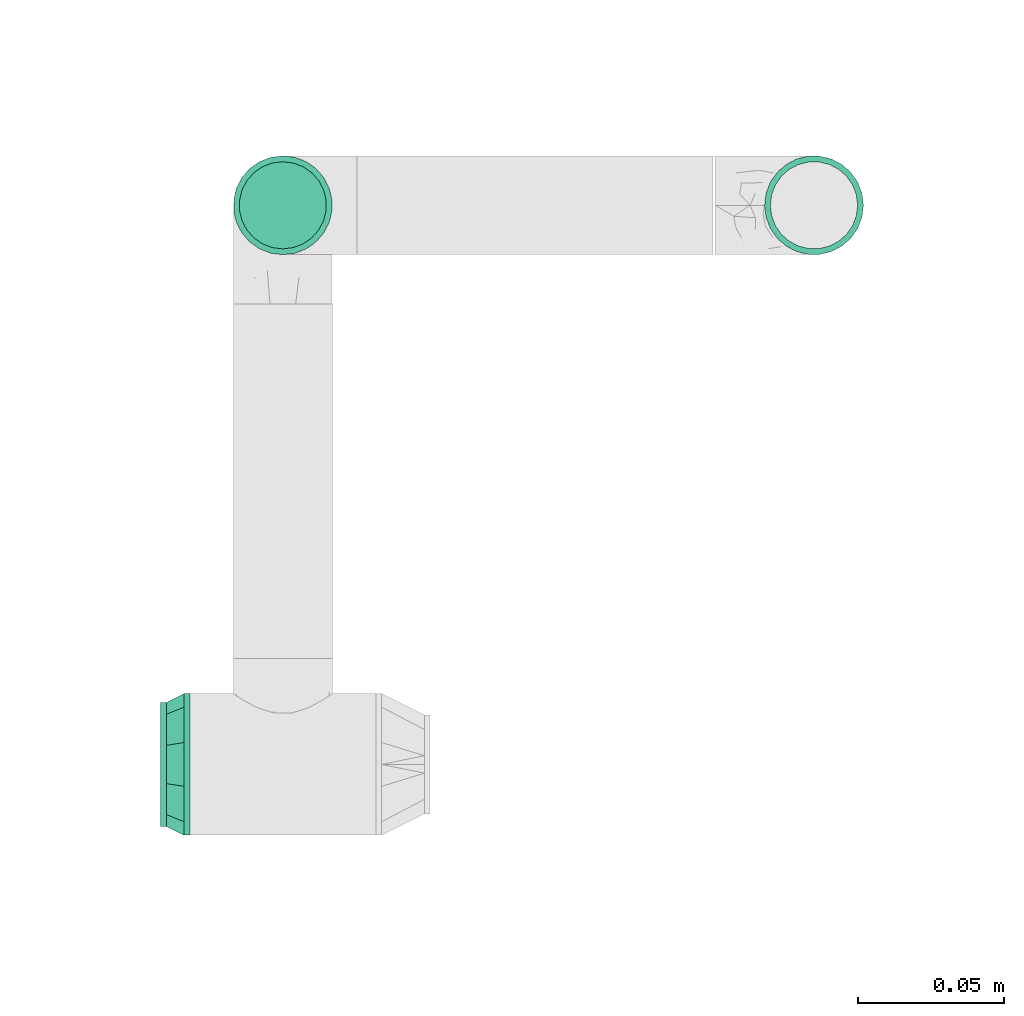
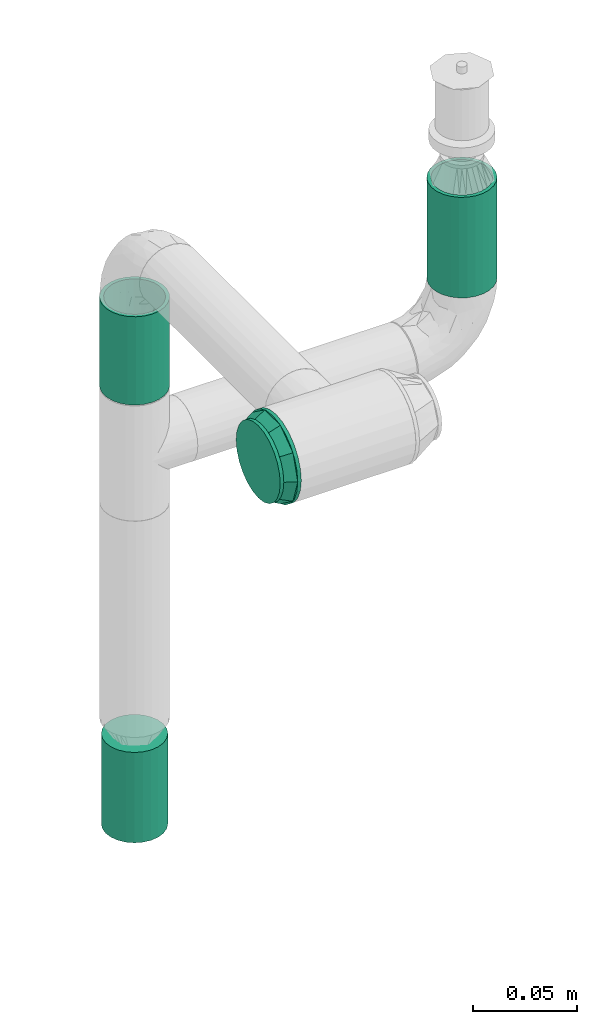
# One storey, part 134 of 157: 2 flow segments, 1 flow fitting, 1 flow terminal.
"""IFC2X3 building model written with IfcOpenShell, lengths in millimetres."""

from ifc_helpers import new_model, entity, si_unit, converted_unit, derived_unit, direction, frame, origin_with_axes, origin_2d_with_axis, place, context, subcontext, project, spatial, hollow_circle, extrude, open_shell, surface_model, source, transform, mapped, type_object, element, save


model = new_model("IFC2X3")

# Units and contexts
model_context = context("Model", 3, precision=0.01, world=frame((0.0, 4.29681676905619e-09, 0.0)), true_north=direction((4.01073788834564e-13, 1.0)))
plan_context = context("Plan", 3, precision=0.01, world=frame((0.0, 4.29681676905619e-09, 0.0)), true_north=direction((4.01073788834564e-13, 1.0)))
body_context = subcontext(model_context, "Body", "Model", "MODEL_VIEW")
ifc_project = project(units=[converted_unit("PLANEANGLEUNIT", "DEGREE", entity("IfcPositiveLengthMeasure", 0.0174532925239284), si_unit("PLANEANGLEUNIT", "RADIAN"), dimensions=[0, 0, 0, 0, 0, 0, 0]), si_unit("AREAUNIT", "SQUARE_METRE"), si_unit("LENGTHUNIT", "METRE", prefix="MILLI"), si_unit("MASSUNIT", "GRAM", prefix="KILO"), si_unit("POWERUNIT", "WATT"), si_unit("PRESSUREUNIT", "PASCAL"), si_unit("FORCEUNIT", "NEWTON", prefix="KILO"), si_unit("ELECTRICCURRENTUNIT", "AMPERE"), si_unit("THERMODYNAMICTEMPERATUREUNIT", "DEGREE_CELSIUS"), si_unit("TIMEUNIT", "SECOND"), si_unit("VOLUMEUNIT", "CUBIC_METRE"), derived_unit("LINEARVELOCITYUNIT", [(si_unit("LENGTHUNIT", "METRE"), 1), (si_unit("TIMEUNIT", "SECOND"), -1)]), derived_unit("VOLUMETRICFLOWRATEUNIT", [(si_unit("VOLUMEUNIT", "CUBIC_METRE"), 1), (si_unit("TIMEUNIT", "SECOND"), -1)]), derived_unit("THERMALTRANSMITTANCEUNIT", [(si_unit("POWERUNIT", "WATT"), 1), (si_unit("THERMODYNAMICTEMPERATUREUNIT", "KELVIN"), -1), (si_unit("AREAUNIT", "SQUARE_METRE"), -1)])], contexts=[model_context, plan_context])

# Site, building, storey
site_placement = place(None, frame((0.0, -4.29681676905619e-09, 0.0), z_axis=(0.0, 0.0, 1.0), x_axis=(1.0, 0.0, 0.0)))
site = spatial("IfcSite", under=ifc_project, at=site_placement, CompositionType="ELEMENT")
building_placement = place(site_placement, frame((0.0, 4.29681676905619e-09, 0.0), z_axis=(0.0, 0.0, 1.0), x_axis=(1.0, 0.0, 0.0)))
building = spatial("IfcBuilding", under=site, at=building_placement, Name="mc-building", CompositionType="ELEMENT")
storey_placement = place(building_placement, frame((0.0, 0.0, 204000.0), z_axis=(0.0, 0.0, 1.0), x_axis=(1.0, 0.0, 0.0)))
storey = spatial("IfcBuildingStorey", under=building, at=storey_placement, Name="Nivå D", CompositionType="ELEMENT", Elevation=204000.0)

# Flow fitting
pipe_fitting_type = type_object("IfcPipeFittingType", Name="magi_pipe_fe_reducer_centric_short_NOR", PredefinedType="TRANSITION")
shared_shape_1 = source(origin_with_axes(), body_context, "Body", "SurfaceModel", [
    surface_model("IfcShellBasedSurfaceModel", [(8.0, 10.6, -18.35974), (8.0, 0.0, -21.2), (8.0, 5.48696, -20.47763), (8.0, 20.47763, -5.48696), (8.0, 14.99066, -14.99066), (8.0, -21.2, 0.0), (8.0, -14.99066, -14.99066), (8.0, 18.35974, -10.6), (8.0, -10.6, -18.35974), (8.0, -5.48696, -20.47763), (8.0, -18.35974, -10.6), (8.0, -20.47763, -5.48696), (8.0, -18.35974, 10.6), (8.0, 21.2, 0.0), (8.0, 20.47763, 5.48696), (8.0, 18.35974, 10.6), (8.0, 14.99066, 14.99066), (8.0, 0.0, 21.2), (8.0, 10.6, 18.35974), (8.0, 5.48696, 20.47763), (8.0, -14.99066, 14.99066), (8.0, -20.47763, 5.48696), (8.0, -5.48696, 20.47763), (8.0, -10.6, 18.35974), (6.0, 0.0, 21.2), (6.0, 5.48696, 20.47763), (6.0, 10.6, 18.35974), (6.0, 14.99066, 14.99066), (6.0, 18.35974, 10.6), (6.0, 20.47763, 5.48696), (6.0, -21.2, 0.0), (6.0, -14.99066, -14.99066), (6.0, -5.48696, 20.47763), (6.0, -14.99066, 14.99066), (6.0, -10.6, 18.35974), (6.0, -18.35974, 10.6), (6.0, -20.47763, 5.48696), (6.0, 20.47763, -5.48696), (6.0, 10.6, -18.35974), (6.0, 14.99066, -14.99066), (6.0, 18.35974, -10.6), (6.0, 5.48696, -20.47763), (6.0, 0.0, -21.2), (6.0, -18.35974, -10.6), (6.0, -20.47763, -5.48696), (6.0, -10.6, -18.35974), (6.0, -5.48696, -20.47763), (6.0, 21.2, 0.0), (-2.0, 0.0, 24.2), (-2.0, 6.26342, 23.37541), (-2.0, 12.1, 20.95781), (-2.0, 17.11198, 17.11198), (-2.0, 24.2, 0.0), (-2.0, 20.95781, 12.1), (-2.0, -23.37541, 6.26342), (-2.0, -17.11198, -17.11198), (-2.0, -6.26342, 23.37541), (-2.0, -17.11198, 17.11198), (-2.0, -12.1, 20.95781), (-2.0, -20.95781, 12.1), (-2.0, -24.2, 0.0), (-2.0, 23.37541, 6.26342), (-2.0, 23.37541, -6.26342), (-2.0, 6.26342, -23.37541), (-2.0, 17.11198, -17.11198), (-2.0, 20.95781, -12.1), (-2.0, 12.1, -20.95781), (-2.0, -23.37541, -6.26342), (-2.0, -20.95781, -12.1), (-2.0, -6.26342, -23.37541), (-2.0, -12.1, -20.95781), (-2.0, 0.0, -24.2), (0.0, 24.2, 0.0), (0.0, 6.26342, -23.37541), (0.0, 12.1, -20.95781), (0.0, 23.37541, -6.26342), (0.0, 17.11198, -17.11198), (0.0, 20.95781, -12.1), (0.0, -24.2, 0.0), (0.0, -12.1, -20.95781), (0.0, -6.26342, -23.37541), (0.0, 0.0, -24.2), (0.0, -17.11198, -17.11198), (0.0, -23.37541, -6.26342), (0.0, -20.95781, -12.1), (0.0, 20.95781, 12.1), (0.0, 17.11198, 17.11198), (0.0, 12.1, 20.95781), (0.0, 6.26342, 23.37541), (0.0, 0.0, 24.2), (0.0, -23.37541, 6.26342), (0.0, -17.11198, 17.11198), (0.0, -20.95781, 12.1), (0.0, -6.26342, 23.37541), (0.0, -12.1, 20.95781), (0.0, 23.37541, 6.26342), (6.0, -6.55116, 20.1624), (6.0, -17.15116, 12.46105), (6.0, 17.15116, 12.46105), (6.0, 6.55116, 20.1624), (6.0, -6.55116, -20.1624), (6.0, -17.15116, -12.46105), (6.0, 6.55116, -20.1624), (6.0, 17.15116, -12.46105), (0.0, 7.47821, 23.01557), (0.0, 19.57821, 14.2244), (0.0, -7.47821, 23.01557), (0.0, -19.57821, 14.2244), (0.0, 7.47821, -23.01557), (0.0, 19.57821, -14.2244), (0.0, -7.47821, -23.01557), (0.0, -19.57821, -14.2244), (6.0, 11.85116, -16.31172), (0.0, 13.52821, -18.61999), (0.0, 21.8891, -7.1122), (6.0, 19.17558, -6.23052), (0.0, -22.51537, -5.18476), (6.0, 0.0, -20.1624), (0.0, 0.0, -23.01557), (6.0, -19.17558, -6.23052), (0.0, -13.52821, -18.61999), (6.0, -11.85116, -16.31172), (0.0, -21.04679, -9.70458), (6.0, -11.85116, 16.31172), (0.0, -13.52821, 18.61999), (0.0, -21.8891, 7.1122), (6.0, -19.17558, 6.23052), (0.0, 22.51537, 5.18476), (6.0, 0.0, 20.1624), (0.0, 0.0, 23.01557), (6.0, 19.17558, 6.23052), (0.0, 13.52821, 18.61999), (6.0, 11.85116, 16.31172), (0.0, 21.04679, 9.70458)], [open_shell([[[0, 1, 2]], [[3, 0, 4]], [[5, 6, 0]], [[3, 4, 7]], [[3, 5, 0]], [[1, 8, 9]], [[1, 0, 8]], [[10, 5, 11]], [[8, 0, 6]], [[10, 6, 5]], [[12, 3, 13]], [[14, 15, 16]], [[14, 16, 17]], [[18, 19, 17]], [[18, 17, 16]], [[14, 17, 20]], [[5, 12, 21]], [[3, 12, 5]], [[20, 22, 23]], [[12, 14, 20]], [[17, 22, 20]], [[12, 13, 14]], [[24, 25, 26]], [[24, 26, 27]], [[27, 28, 29]], [[27, 29, 24]], [[30, 24, 31]], [[32, 33, 34]], [[32, 24, 33]], [[35, 30, 36]], [[33, 24, 35]], [[24, 30, 35]], [[24, 29, 31]], [[29, 37, 38]], [[39, 37, 40]], [[31, 29, 38]], [[38, 37, 39]], [[41, 42, 38]], [[30, 43, 44]], [[31, 43, 30]], [[45, 42, 46]], [[45, 31, 38]], [[42, 45, 38]], [[37, 29, 47]], [[44, 11, 30]], [[43, 10, 44]], [[8, 31, 45]], [[43, 31, 6]], [[9, 45, 46]], [[44, 10, 11]], [[11, 5, 30]], [[9, 8, 45]], [[6, 31, 8]], [[6, 10, 43]], [[1, 9, 46]], [[46, 42, 1]], [[41, 2, 42]], [[38, 0, 41]], [[7, 39, 40]], [[38, 39, 4]], [[3, 40, 37]], [[38, 4, 0]], [[0, 2, 41]], [[13, 3, 37]], [[7, 40, 3]], [[7, 4, 39]], [[47, 13, 37]], [[42, 2, 1]], [[29, 14, 47]], [[28, 15, 29]], [[18, 27, 26]], [[28, 27, 16]], [[19, 26, 25]], [[29, 15, 14]], [[14, 13, 47]], [[19, 18, 26]], [[16, 27, 18]], [[16, 15, 28]], [[17, 19, 25]], [[25, 24, 17]], [[32, 22, 24]], [[34, 23, 32]], [[12, 33, 35]], [[34, 33, 20]], [[21, 35, 36]], [[34, 20, 23]], [[23, 22, 32]], [[5, 21, 36]], [[12, 35, 21]], [[12, 20, 33]], [[30, 5, 36]], [[24, 22, 17]], [[48, 49, 50]], [[48, 50, 51]], [[52, 51, 53]], [[54, 48, 55]], [[48, 51, 55]], [[56, 57, 58]], [[56, 48, 57]], [[57, 54, 59]], [[48, 54, 57]], [[54, 55, 60]], [[52, 53, 61]], [[51, 62, 63]], [[64, 62, 65]], [[66, 63, 62]], [[66, 62, 64]], [[63, 55, 51]], [[67, 55, 68]], [[60, 55, 67]], [[63, 69, 70]], [[70, 55, 63]], [[69, 63, 71]], [[62, 51, 52]], [[72, 73, 74]], [[75, 74, 76]], [[75, 72, 74]], [[75, 76, 77]], [[73, 78, 79]], [[73, 80, 81]], [[73, 79, 80]], [[82, 83, 84]], [[82, 79, 78]], [[82, 78, 83]], [[73, 72, 85]], [[85, 86, 73]], [[73, 86, 78]], [[87, 88, 89]], [[87, 89, 86]], [[78, 86, 89]], [[90, 91, 92]], [[93, 90, 78]], [[91, 93, 94]], [[93, 91, 90]], [[78, 89, 93]], [[72, 95, 85]], [[67, 83, 60]], [[68, 84, 67]], [[79, 55, 70]], [[68, 55, 82]], [[80, 70, 69]], [[67, 84, 83]], [[83, 78, 60]], [[80, 79, 70]], [[82, 55, 79]], [[82, 84, 68]], [[81, 80, 69]], [[69, 71, 81]], [[63, 73, 71]], [[66, 74, 63]], [[77, 64, 65]], [[66, 64, 76]], [[75, 65, 62]], [[66, 76, 74]], [[74, 73, 63]], [[72, 75, 62]], [[77, 65, 75]], [[77, 76, 64]], [[52, 72, 62]], [[71, 73, 81]], [[61, 95, 52]], [[53, 85, 61]], [[87, 51, 50]], [[53, 51, 86]], [[88, 50, 49]], [[61, 85, 95]], [[95, 72, 52]], [[88, 87, 50]], [[86, 51, 87]], [[86, 85, 53]], [[89, 88, 49]], [[49, 48, 89]], [[56, 93, 48]], [[58, 94, 56]], [[92, 57, 59]], [[58, 57, 91]], [[90, 59, 54]], [[58, 91, 94]], [[94, 93, 56]], [[78, 90, 54]], [[92, 59, 90]], [[92, 91, 57]], [[60, 78, 54]], [[48, 93, 89]], [[96, 97, 98]], [[96, 98, 99]], [[98, 97, 47]], [[97, 100, 47]], [[97, 101, 100]], [[102, 103, 47]], [[47, 100, 102]], [[101, 97, 30]], [[104, 105, 106]], [[105, 107, 106]], [[107, 105, 78]], [[105, 108, 78]], [[109, 108, 105]], [[78, 110, 111]], [[78, 108, 110]], [[105, 72, 109]], [[109, 103, 112]], [[102, 113, 112]], [[113, 102, 108]], [[114, 115, 103]], [[47, 115, 72]], [[113, 109, 112]], [[30, 78, 116]], [[108, 117, 118]], [[118, 117, 100]], [[100, 110, 118]], [[103, 109, 114]], [[72, 115, 114]], [[116, 119, 30]], [[120, 121, 101]], [[100, 121, 110]], [[119, 122, 101]], [[110, 121, 120]], [[101, 111, 120]], [[119, 116, 122]], [[102, 117, 108]], [[122, 111, 101]], [[107, 97, 123]], [[96, 124, 123]], [[124, 96, 106]], [[125, 126, 97]], [[30, 126, 78]], [[124, 107, 123]], [[47, 72, 127]], [[106, 128, 129]], [[129, 128, 99]], [[99, 104, 129]], [[97, 107, 125]], [[78, 126, 125]], [[127, 130, 47]], [[131, 132, 98]], [[99, 132, 104]], [[130, 133, 98]], [[104, 132, 131]], [[98, 105, 131]], [[130, 127, 133]], [[96, 128, 106]], [[133, 105, 98]]])]),
])
flow_fitting_placement = place(storey_placement, frame((517975.58219, 420106.68371, 2690.0), z_axis=(0.0, 0.0, 1.0), x_axis=(-1.0, 0.0, 0.0)))
element("IfcFlowFitting", 1, at=flow_fitting_placement, inside=storey, type_object=pipe_fitting_type, Name="magi_pipe_fe_reducer_centric_short_NOR", context=body_context, shape_type="MappedRepresentation", body=[
    mapped(shared_shape_1, transform((0.0, 0.0, 0.0), scale=1.0)),
])

# Flow segments
pipe_segment_type = type_object("IfcPipeSegmentType", Name="Stålrør normaltykke", PredefinedType="RIGIDSEGMENT")
shared_shape_2 = source(origin_with_axes(), body_context, "Body", "SweptSolid", [
    extrude(hollow_circle(Radius=16.9, WallThickness=2.0, at=origin_2d_with_axis()), frame((0.0, 0.0, 0.0), z_axis=(1.0, 0.0, 0.0), x_axis=(0.0, 1.0, 0.0)), (0.0, 0.0, 1.0), 51.8),
])
flow_segment_1_placement = place(storey_placement, frame((518009.38219, 420297.85762, 2656.20000000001), z_axis=(1.0, 0.0, 0.0), x_axis=(0.0, 0.0, -1.0)))
element("IfcFlowSegment", 2, at=flow_segment_1_placement, inside=storey, type_object=pipe_segment_type, Name="Stålrør normaltykke", context=body_context, shape_type="MappedRepresentation", body=[
    mapped(shared_shape_2, transform((0.0, 0.0, 0.0), scale=1.0)),
])
shared_shape_3 = source(origin_with_axes(), body_context, "Body", "SweptSolid", [
    extrude(hollow_circle(Radius=16.9, WallThickness=2.0, at=origin_2d_with_axis()), frame((0.0, 0.0, 0.0), z_axis=(1.0, 0.0, 0.0), x_axis=(0.0, 1.0, 0.0)), (0.0, 0.0, 1.0), 59.0),
])
flow_segment_2_placement = place(storey_placement, frame((518190.99696, 420297.85762, 2662.64799999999), z_axis=(0.0, 1.0, 0.0), x_axis=(0.0, 0.0, -1.0)))
element("IfcFlowSegment", 3, at=flow_segment_2_placement, inside=storey, type_object=pipe_segment_type, Name="Stålrør normaltykke", context=body_context, shape_type="MappedRepresentation", body=[
    mapped(shared_shape_3, transform((0.0, 0.0, 0.0), scale=1.0)),
])

# Flow terminal
fire_suppression_terminal_type = type_object("IfcFireSuppressionTerminalType", Name="SP-15-K80-68DGR-STD-HIMLING", PredefinedType="NOTDEFINED")
shared_shape_4 = source(origin_with_axes(), body_context, "Body", "SurfaceModel", [
    surface_model("IfcShellBasedSurfaceModel", [(4.1411, -15.45481, 53.0), (8.0, -13.85641, 53.0), (11.31371, -11.31371, 53.0), (-8.0, -13.85641, 53.0), (15.45481, -4.1411, 53.0), (16.0, 0.0, 53.0), (13.85641, -8.0, 53.0), (0.0, -16.0, 53.0), (-4.1411, -15.45481, 53.0), (-13.85641, -8.0, 53.0), (-11.31371, -11.31371, 53.0), (-15.45481, -4.1411, 53.0), (15.45481, 4.1411, 53.0), (13.85641, 8.0, 53.0), (11.31371, 11.31371, 53.0), (-4.1411, 15.45481, 53.0), (8.0, 13.85641, 53.0), (4.1411, 15.45481, 53.0), (0.0, 16.0, 53.0), (-13.85641, 8.0, 53.0), (-15.45481, 4.1411, 53.0), (-16.0, 0.0, 53.0), (-11.31371, 11.31371, 53.0), (-8.0, 13.85641, 53.0), (0.0, 16.0, 0.0), (4.1411, 15.45481, 0.0), (8.0, 13.85641, 0.0), (-4.1411, 15.45481, 0.0), (11.31371, 11.31371, 0.0), (13.85641, 8.0, 0.0), (15.45481, 4.1411, 0.0), (-15.45481, -4.1411, 0.0), (-11.31371, 11.31371, 0.0), (-8.0, 13.85641, 0.0), (-13.85641, 8.0, 0.0), (-15.45481, 4.1411, 0.0), (-16.0, 0.0, 0.0), (4.1411, -15.45481, 0.0), (16.0, 0.0, 0.0), (15.45481, -4.1411, 0.0), (13.85641, -8.0, 0.0), (11.31371, -11.31371, 0.0), (8.0, -13.85641, 0.0), (-8.0, -13.85641, 0.0), (-13.85641, -8.0, 0.0), (-11.31371, -11.31371, 0.0), (0.0, -16.0, 0.0), (-4.1411, -15.45481, 0.0)], [open_shell([[[0, 1, 2]], [[3, 0, 2]], [[4, 5, 2]], [[4, 2, 6]], [[3, 2, 5]], [[7, 3, 8]], [[7, 0, 3]], [[3, 9, 10]], [[9, 3, 11]], [[5, 11, 3]], [[5, 12, 11]], [[12, 13, 14]], [[15, 12, 14]], [[16, 17, 18]], [[14, 16, 15]], [[18, 15, 16]], [[11, 19, 20]], [[21, 11, 20]], [[22, 15, 23]], [[15, 22, 19]], [[19, 11, 15]], [[11, 12, 15]], [[24, 25, 26]], [[27, 24, 26]], [[28, 29, 30]], [[27, 26, 28]], [[27, 28, 31]], [[27, 32, 33]], [[32, 27, 34]], [[34, 31, 35]], [[31, 34, 27]], [[35, 31, 36]], [[28, 30, 31]], [[37, 38, 39]], [[37, 39, 40]], [[41, 42, 37]], [[41, 37, 40]], [[38, 37, 43]], [[44, 43, 45]], [[43, 44, 31]], [[43, 46, 47]], [[43, 31, 38]], [[37, 46, 43]], [[38, 31, 30]], [[11, 31, 44]], [[45, 9, 44]], [[3, 43, 47]], [[45, 43, 10]], [[8, 47, 46]], [[31, 21, 36]], [[31, 11, 21]], [[44, 9, 11]], [[45, 10, 9]], [[3, 10, 43]], [[47, 8, 3]], [[46, 7, 8]], [[0, 37, 42]], [[41, 1, 42]], [[6, 40, 39]], [[41, 40, 2]], [[4, 39, 38]], [[37, 0, 7]], [[42, 1, 0]], [[41, 2, 1]], [[40, 6, 2]], [[4, 6, 39]], [[38, 5, 4]], [[37, 7, 46]], [[12, 38, 30]], [[13, 30, 29]], [[16, 26, 25]], [[17, 25, 24]], [[30, 13, 12]], [[12, 5, 38]], [[28, 14, 13]], [[28, 26, 14]], [[14, 26, 16]], [[25, 17, 16]], [[28, 13, 29]], [[24, 18, 17]], [[15, 27, 33]], [[32, 23, 33]], [[19, 34, 35]], [[32, 34, 22]], [[20, 35, 36]], [[27, 15, 18]], [[33, 23, 15]], [[32, 22, 23]], [[34, 19, 22]], [[20, 19, 35]], [[36, 21, 20]], [[27, 18, 24]]])]),
])
flow_terminal_placement = place(storey_placement, frame((518009.38219, 420297.85762, 2400.0), z_axis=(0.0, 0.0, -1.0), x_axis=(1.0, 0.0, 0.0)))
element("IfcFlowTerminal", 4, at=flow_terminal_placement, inside=storey, type_object=fire_suppression_terminal_type, Name="SP-15-K80-68DGR-STD-HIMLING", context=body_context, shape_type="MappedRepresentation", body=[
    mapped(shared_shape_4, transform((0.0, 0.0, 0.0), scale=1.0)),
])

save(model, "model.ifc")
